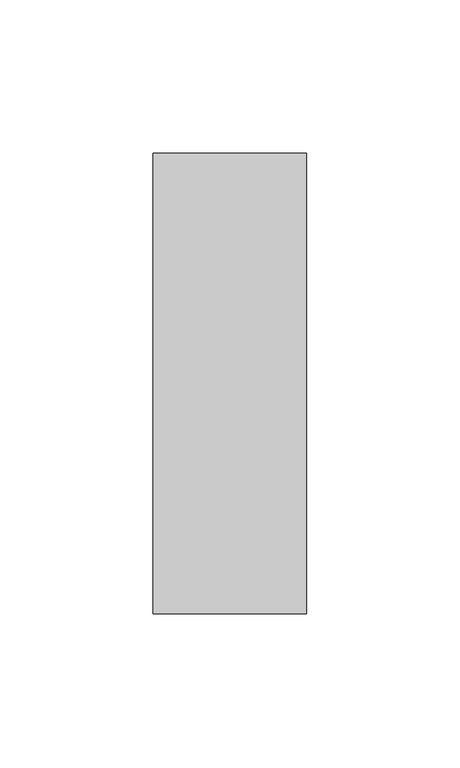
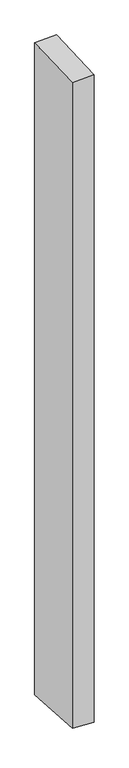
"""IFC4 building model written with IfcOpenShell, lengths in millimetres: member geometry, Прямоугольный импост : 50 x 150 мм."""

from ifc_helpers import new_model, si_unit, origin, place, context, project, spatial, faceted_brep, source, transform, mapped, element, save


def member_f3a752e7(model_context):
    return source(origin(), model_context, "Body", "Brep", [
        faceted_brep([(-25.0, 75.0, 1.8399704), (25.0, 75.0, 3.980482), (25.0, 75.0, -1584.4259216), (-25.0, 75.0, -1581.7627819), (-25.0, -75.0, -3.980482), (-25.0, -75.0, -1572.6617248), (25.0, -75.0, -1.8399704), (25.0, -75.0, -1575.3248646)], [[[0, 1, 2, 3]], [[4, 0, 3, 5]], [[6, 4, 5, 7]], [[1, 6, 7, 2]], [[1, 0, 4, 6]], [[2, 7, 5, 3]]]),
    ])


if __name__ == "__main__":
    model = new_model("IFC4")
    model_context = context("Model", 3, world=origin())
    ifc_project = project(units=[si_unit("LENGTHUNIT", "METRE", prefix="MILLI")], contexts=[model_context])
    site = spatial("IfcSite", under=ifc_project)
    building = spatial("IfcBuilding", under=site)
    placement = place(None, origin())
    member_shape = member_f3a752e7(model_context)
    element("IfcMember", 1, ObjectType="Прямоугольный импост : 50 x 150 мм", at=placement, inside=building, context=model_context, shape_type="MappedRepresentation", body=[
        mapped(member_shape, transform((0.0, 0.0, 0.0), x_axis=(1.0, 0.0, 0.0), y_axis=(0.0, 1.0, 0.0), z_axis=(0.0, 0.0, 1.0))),
    ])
    save(model, "model.ifc")
